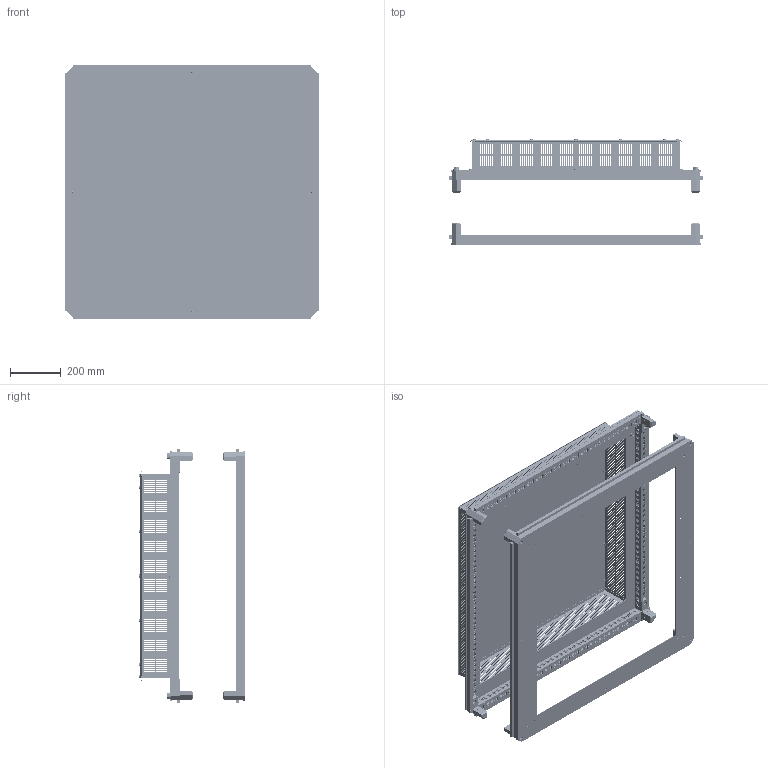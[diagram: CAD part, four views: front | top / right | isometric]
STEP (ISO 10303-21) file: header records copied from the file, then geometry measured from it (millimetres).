
FILE_DESCRIPTION (( 'STEP AP214' ), '1' );
FILE_NAME ('FO-00-KOF-100-100-31 Êðûøà è îñíîâàíèå (ïîä ôëàíåö) 1000õ1000 ìì IP31.STEP', '2025-08-25T12:48:56', ( '' ), ( '' ), 'SwSTEP 2.0', 'SolidWorks 2023', '' );
FILE_SCHEMA (( 'AUTOMOTIVE_DESIGN' ));
Length unit declared in the file: millimetre
Products named in the file (3): Крыша под фланец 1000х1000 IP31; FO-00-KOF-100-100-31 Крыша и основание (под фланец) 1000х1000 мм IP31; Основание под фланец 1000x1000
Assembly tree (2 placements, depth 2):
  FO-00-KOF-100-100-31 Крыша и основание (под фланец) 1000х1000 мм IP31
    Крыша под фланец 1000х1000 IP31
    Основание под фланец 1000x1000
Bounding box: 1000.1 x 417.79 x 1000.1 mm (x, y, z)
Volume: 5610319.7 mm3; surface area: 5309221.7 mm2
Topology: 2 solids, 62 shells, 10506 faces, 30110 edges, 19972 vertices
Faces by surface type: plane 7330, cylinder 2608, cone 280, bspline 192, sphere 48, torus 48
Entity records: 356602 total; most frequent: CARTESIAN_POINT 72141, ORIENTED_EDGE 60200, DIRECTION 54878, EDGE_CURVE 30100, LINE 23180, VECTOR 23180, VERTEX_POINT 19972, AXIS2_PLACEMENT_3D 15849
